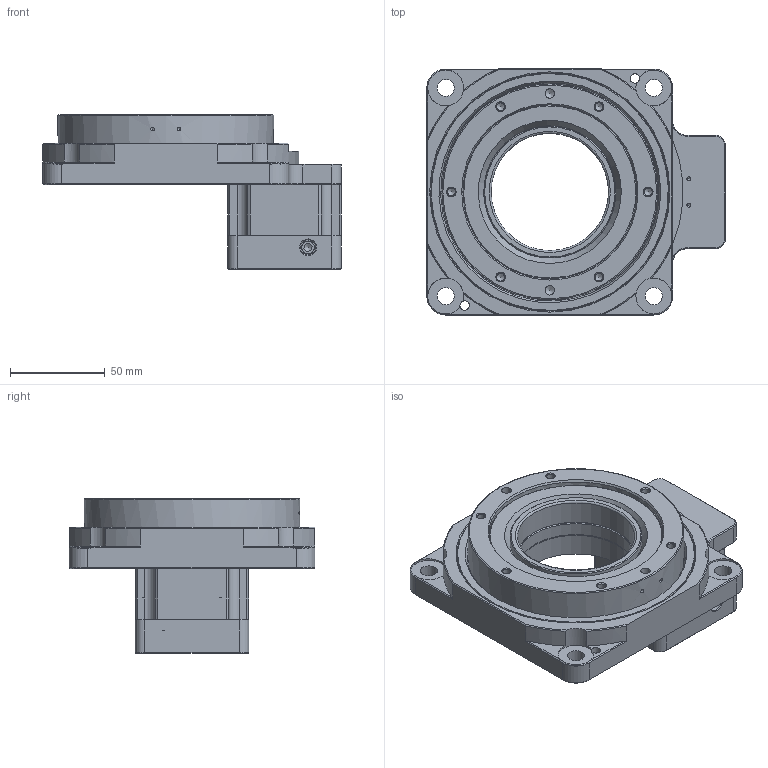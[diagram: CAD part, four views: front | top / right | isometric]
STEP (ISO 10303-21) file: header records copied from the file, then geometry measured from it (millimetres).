
FILE_DESCRIPTION((''),'2;1');
FILE_NAME('D:\유성\액추에이터\작성도면\액추에이터 3d\130\SHA130SV018 (1STAGE-A TYPE).stp','2014-05-22T14:17:06',('nagyu'),(''),'Autodesk Inventor 2013','Autodesk Inventor 2013','');
FILE_SCHEMA(('AUTOMOTIVE_DESIGN { 1 0 10303 214 1 1 1 1 }'));
Length unit declared in the file: millimetre
Products named in the file (1): SHA130SV018 파팅_Shrinkwrap_1
Bounding box: 157.7 x 130 x 81.6 mm (x, y, z)
Volume: 432549.1 mm3; surface area: 149149.6 mm2
Topology: 1 solids, 25 shells, 1664 faces, 4484 edges, 2929 vertices
Faces by surface type: bspline 935, plane 308, cylinder 208, cone 173, torus 40
Full cylindrical faces by diameter (mm): 1.5 x2, 2.013 x4, 2.459 x12, 3 x5, 3.242 x9, 3.4 x12, 4 x4, 4.134 x10, 4.3 x4, 4.5 x4, 5 x5, 5.5 x5, 6 x12, 6.8 x1, 7 x4, 7.5 x8, 7.9 x1, 8 x3, 8.16 x1, 8.5 x1, 9 x4, 10 x1, 14 x1, 14.2 x1, 17 x1, 19 x2, 23.9 x1, 24.7 x1, 24.9 x1, 25 x2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
Entity records: 66006 total; most frequent: CARTESIAN_POINT 30039, ORIENTED_EDGE 8094, DIRECTION 5062, EDGE_CURVE 4047, VERTEX_POINT 2810, AXIS2_PLACEMENT_3D 2333, EDGE_LOOP 2100, B_SPLINE_CURVE_WITH_KNOTS 1973
